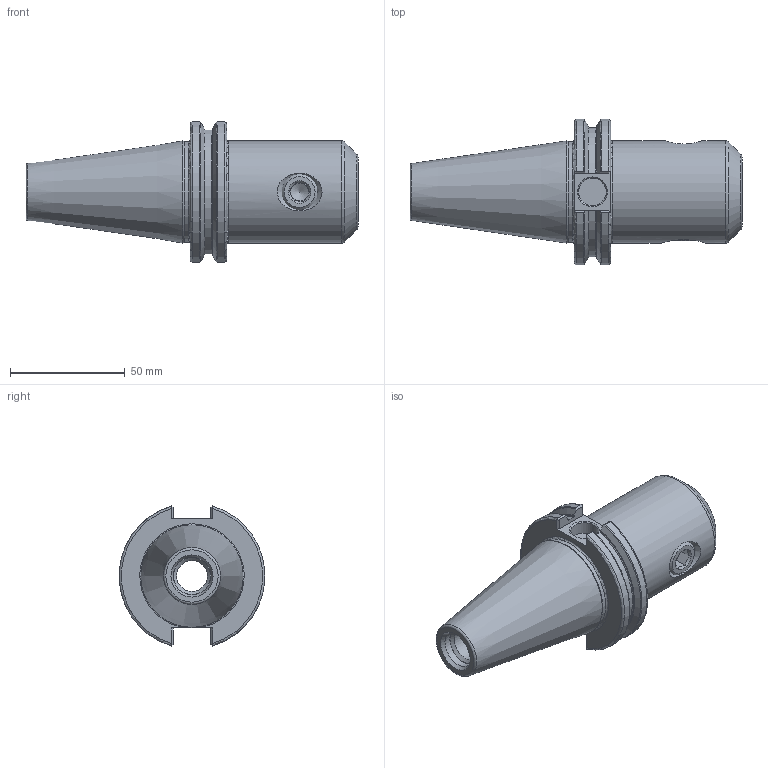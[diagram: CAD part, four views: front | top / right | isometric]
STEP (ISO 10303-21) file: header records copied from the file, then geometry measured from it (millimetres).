
FILE_DESCRIPTION(/* description */ (''),/* implementation_level */ '2;1');
FILE_NAME(/* name */ 'I:\00.2022最新版图纸\SLA---侧固式铣刀柄\侧固刀柄三维模型\CAT40-SLA19.05-76.2.stp',/* time_stamp */ '2022-07-20T10:27:32+08:00',/* author */ ('Administrator'),/* organization */ (''),/* preprocessor_version */ 'ST-DEVELOPER v18.1',/* originating_system */ 'Autodesk Inventor 2022',/* authorisation */ '');
FILE_SCHEMA (('AUTOMOTIVE_DESIGN { 1 0 10303 214 3 1 1 }'));
Length unit declared in the file: millimetre
Products named in the file (3): CAT40-SLA19.05-76; CAT40-SLA19.05-76.2; 5-8-18UNF-12.7
Assembly tree (2 placements, depth 2):
  CAT40-SLA19.05-76
    CAT40-SLA19.05-76.2
    5-8-18UNF-12.7
Bounding box: 144.45 x 63.27 x 60.92 mm (x, y, z)
Volume: 160970.4 mm3; surface area: 33330.5 mm2
Topology: 2 solids, 2 shells, 114 faces, 292 edges, 186 vertices
Faces by surface type: plane 43, cylinder 18, cone 18, torus 18, bspline 16, sphere 1
Full cylindrical faces by diameter (mm): 7.8 x1, 8 x1, 12 x1, 13.5 x1, 14.351 x1, 15.875 x1, 16.281 x1, 16.4 x1, 19.05 x1, 20 x1, 43.85 x1, 44.45 x1
Entity records: 4384 total; most frequent: CARTESIAN_POINT 1663, ORIENTED_EDGE 580, DIRECTION 502, EDGE_CURVE 290, AXIS2_PLACEMENT_3D 188, VERTEX_POINT 186, LINE 126, VECTOR 126
